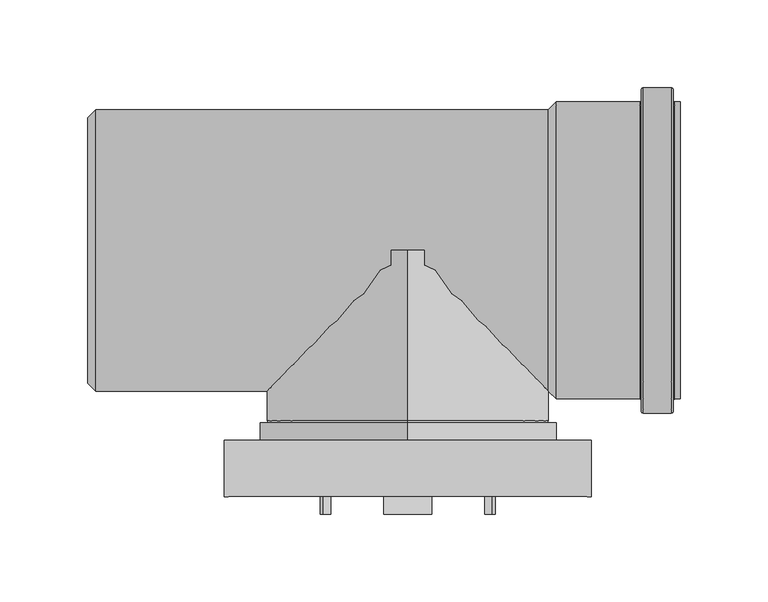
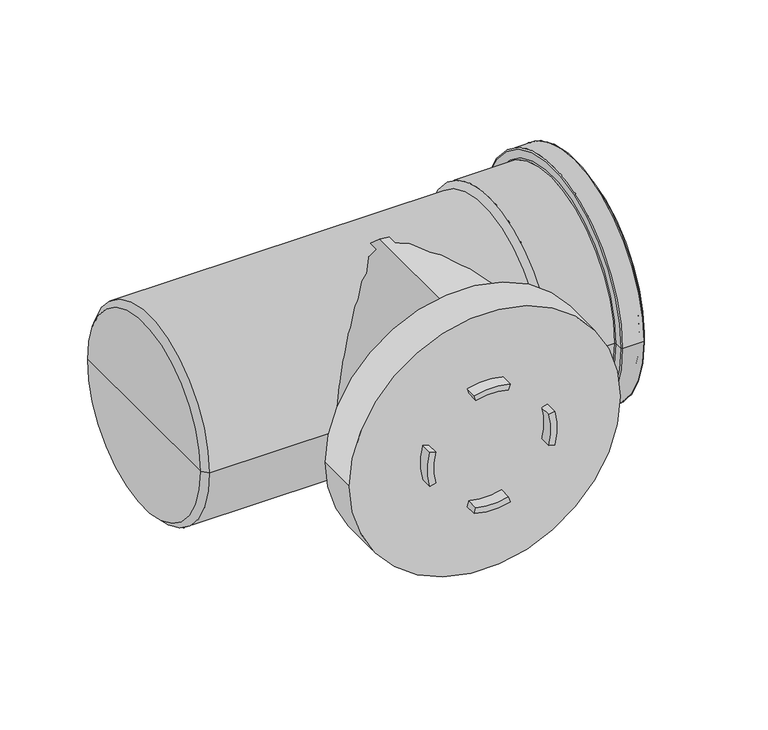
"""IFC4 building model written with IfcOpenShell, lengths in millimetres: pipe fitting geometry, MarleyPlumbingAndDrainage_PipeFitting_dBlueAccess_VCZ-160-000-00D : VCZ-160-000-00D - 160mm - Blue."""

from ifc_helpers import new_model, si_unit, point, frame, frame_2d, origin, place, context, project, spatial, polyline, circle_curve, ellipse_curve, trimmed, segment, composite_curve, outline, extrude, source, transform, mapped, element, save
from ifc_brep_helpers import plane_surface, cylinder_surface, revolved_surface, advanced_brep


def pipe_fitting_5ae2cbee(model_context):
    return source(origin(), model_context, "Body", "SolidModel", [
        advanced_brep(
        [(-603.7953164, -140.0, 0.0), (-394.7953164, -140.0, 0.0), (-603.7953164, -108.0, 0.0), (-394.7953164, -108.0, 0.0), (-499.2953164, -108.0, -84.5), (-499.2953164, -108.0, 84.5), (-499.2953164, -98.0, -84.5), (-499.2953164, -98.0, 84.5), (-499.2953164, -98.0, -81.0), (-499.2953164, -98.0, 81.0), (-499.2953164, -97.0, -80.0), (-499.2953164, -97.0, 80.0), (-499.2953164, 0.0, -80.0), (-499.2953164, 0.0, 80.0), (-499.2953164, 0.0, 0.0)],
        [
            (0, 1, circle_curve(frame((-499.2953164, -140.0, 0.0), z_axis=(0.0, -1.0, 0.0), x_axis=(1.0, 0.0, 0.0)), 104.5)),
            (1, 0, circle_curve(frame((-499.2953164, -140.0, 0.0), z_axis=(0.0, -1.0, 0.0), x_axis=(1.0, 0.0, 0.0)), 104.5)),
            (2, 3, circle_curve(frame((-499.2953164, -108.0, 0.0), z_axis=(0.0, 1.0, 0.0), x_axis=(1.0, 0.0, 0.0)), 104.5)),
            (3, 2, circle_curve(frame((-499.2953164, -108.0, 0.0), z_axis=(0.0, 1.0, 0.0), x_axis=(1.0, 0.0, 0.0)), 104.5)),
            (4, 5, circle_curve(frame((-499.2953164, -108.0, 0.0), z_axis=(0.0, -1.0, 0.0), x_axis=(0.0, 0.0, 1.0)), 84.5)),
            (5, 4, circle_curve(frame((-499.2953164, -108.0, 0.0), z_axis=(0.0, -1.0, 0.0), x_axis=(0.0, 0.0, 1.0)), 84.5)),
            (0, 2),
            (3, 1),
            (6, 7, circle_curve(frame((-499.2953164, -98.0, 0.0), z_axis=(0.0, -1.0, 0.0), x_axis=(0.0, 0.0, 1.0)), 84.5)),
            (7, 5),
            (4, 6),
            (7, 6, circle_curve(frame((-499.2953164, -98.0, 0.0), z_axis=(0.0, -1.0, 0.0), x_axis=(0.0, 0.0, 1.0)), 84.5)),
            (6, 8),
            (8, 9, circle_curve(frame((-499.2953164, -98.0, 0.0), z_axis=(0.0, -1.0, 0.0), x_axis=(0.0, 0.0, 1.0)), 81.0)),
            (9, 7),
            (9, 8, circle_curve(frame((-499.2953164, -98.0, 0.0), z_axis=(0.0, -1.0, 0.0), x_axis=(0.0, 0.0, 1.0)), 81.0)),
            (8, 10, circle_curve(frame((-499.2953164, -97.0, -81.0), z_axis=(-1.0, 0.0, 0.0), x_axis=(0.0, -1.0, 0.0)), 1.0)),
            (10, 11, circle_curve(frame((-499.2953164, -97.0, 0.0), z_axis=(0.0, -1.0, 0.0), x_axis=(0.0, 0.0, 1.0)), 80.0)),
            (11, 9, circle_curve(frame((-499.2953164, -97.0, 81.0), z_axis=(-1.0, 0.0, 0.0), x_axis=(0.0, -1.0, 0.0)), 1.0)),
            (11, 10, circle_curve(frame((-499.2953164, -97.0, 0.0), z_axis=(0.0, -1.0, 0.0), x_axis=(0.0, 0.0, 1.0)), 80.0)),
            (10, 12),
            (12, 13, circle_curve(frame((-499.2953164, 0.0, 0.0), z_axis=(0.0, -1.0, 0.0), x_axis=(0.0, 0.0, 1.0)), 80.0)),
            (13, 11),
            (13, 12, circle_curve(frame((-499.2953164, 0.0, 0.0), z_axis=(0.0, -1.0, 0.0), x_axis=(0.0, 0.0, 1.0)), 80.0)),
            (12, 14),
            (14, 13),
        ],
        [
            plane_surface(frame((-394.7953164, -140.0, 0.0), z_axis=(0.0, -1.0, 0.0), x_axis=(0.0, 0.0, 1.0))),
            plane_surface(frame((-394.7953164, -108.0, 0.0), z_axis=(0.0, 1.0, 0.0), x_axis=(0.0, 0.0, -1.0))),
            cylinder_surface(frame((-499.2953164, -108.0, 0.0), z_axis=(0.0, -1.0, 0.0), x_axis=(1.0, 0.0, 0.0)), 104.5),
            cylinder_surface(frame((-499.2953164, 1158.344146, 0.0), z_axis=(0.0, 1.0, 0.0), x_axis=(0.0, 0.0, 1.0)), 84.5),
            plane_surface(frame((-499.2953164, -98.0, 0.0), z_axis=(0.0, 1.0, 0.0), x_axis=(0.0, 0.0, 1.0))),
            revolved_surface(trimmed(ellipse_curve(frame((-499.2953164, -97.0, 81.0), z_axis=(1.0, 0.0, 0.0), x_axis=(0.0, -1.0, 0.0)), 1.0, 1.0), [point((-499.2953164, -98.0, 81.0))], [point((-499.2953164, -97.0, 80.0))], True, "CARTESIAN"), (-499.2953164, 1158.344146, 0.0), (0.0, 1.0, 0.0)),
            cylinder_surface(frame((-499.2953164, 1158.344146, 0.0), z_axis=(0.0, 1.0, 0.0), x_axis=(0.0, 0.0, 1.0)), 80.0),
            plane_surface(frame((-499.2953164, 0.0, 0.0), z_axis=(0.0, 1.0, 0.0), x_axis=(0.0, 0.0, 1.0))),
        ],
        [
            (0, [[1, 2]]),
            (1, [[3, 4], [5, 6]]),
            (2, [[-1, 7, -4, 8]]),
            (2, [[-2, -8, -3, -7]]),
            (3, [[9, 10, -5, 11]]),
            (3, [[-10, 12, -11, -6]]),
            (4, [[-9, 13, 14, 15]]),
            (4, [[-12, -15, 16, -13]]),
            (5, [[-14, 17, 18, 19]]),
            (5, [[-16, -19, 20, -17]]),
            (6, [[-18, 21, 22, 23]]),
            (6, [[-20, -23, 24, -21]]),
            (7, [[-22, 25, 26]]),
            (7, [[-24, -26, -25]]),
        ],
    ),
        extrude(outline(composite_curve([segment(polyline([(43.7374072, -486.7538167), (48.0630848, -485.5134486)]), True, "CONTINUOUS"), segment(trimmed(circle_curve(frame_2d((0.0, -499.2953164)), 50.0), [point((48.0630848, -485.5134486))], [point((48.0630848, -513.0771842))], False, "CARTESIAN"), True, "CONTINUOUS"), segment(polyline([(48.0630848, -513.0771842), (43.7374072, -511.8368161)]), True, "CONTINUOUS"), segment(trimmed(circle_curve(frame_2d((0.0, -499.2953164)), 45.5), [point((43.7374072, -511.8368161))], [point((43.7374072, -486.7538167))], True, "CARTESIAN"), True, "CONTINUOUS")], self_intersect=False)), frame((0.0, -150.0, 0.0), z_axis=(0.0, 1.0, 0.0), x_axis=(0.0, 0.0, 1.0)), (0.0, 0.0, 1.0), 10.0),
        extrude(outline(composite_curve([segment(polyline([(12.5414997, -543.0327236), (13.7818678, -547.3584012)]), True, "CONTINUOUS"), segment(trimmed(circle_curve(frame_2d((0.0, -499.2953164)), 50.0), [point((13.7818678, -547.3584012))], [point((-13.7818678, -547.3584012))], False, "CARTESIAN"), True, "CONTINUOUS"), segment(polyline([(-13.7818678, -547.3584012), (-12.5414997, -543.0327236)]), True, "CONTINUOUS"), segment(trimmed(circle_curve(frame_2d((0.0, -499.2953164)), 45.5), [point((-12.5414997, -543.0327236))], [point((12.5414997, -543.0327236))], True, "CARTESIAN"), True, "CONTINUOUS")], self_intersect=False)), frame((0.0, -150.0, 0.0), z_axis=(0.0, 1.0, 0.0), x_axis=(0.0, 0.0, 1.0)), (0.0, 0.0, 1.0), 10.0),
        extrude(outline(composite_curve([segment(trimmed(circle_curve(frame_2d((0.0, -499.2953164)), 45.5), [point((12.5414997, -455.5579092))], [point((-12.5414997, -455.5579092))], True, "CARTESIAN"), True, "CONTINUOUS"), segment(polyline([(-12.5414997, -455.5579092), (-13.7818678, -451.2322316)]), True, "CONTINUOUS"), segment(trimmed(circle_curve(frame_2d((0.0, -499.2953164)), 50.0), [point((-13.7818678, -451.2322316))], [point((13.7818678, -451.2322316))], False, "CARTESIAN"), True, "CONTINUOUS"), segment(polyline([(13.7818678, -451.2322316), (12.5414997, -455.5579092)]), True, "CONTINUOUS")], self_intersect=False)), frame((0.0, -150.0, 0.0), z_axis=(0.0, 1.0, 0.0), x_axis=(0.0, 0.0, 1.0)), (0.0, 0.0, 1.0), 10.0),
        extrude(outline(composite_curve([segment(polyline([(-48.0630848, -485.5134486), (-43.7374072, -486.7538167)]), True, "CONTINUOUS"), segment(trimmed(circle_curve(frame_2d((0.0, -499.2953164)), 45.5), [point((-43.7374072, -486.7538167))], [point((-43.7374072, -511.8368161))], True, "CARTESIAN"), True, "CONTINUOUS"), segment(polyline([(-43.7374072, -511.8368161), (-48.0630848, -513.0771842)]), True, "CONTINUOUS"), segment(trimmed(circle_curve(frame_2d((0.0, -499.2953164)), 50.0), [point((-48.0630848, -513.0771842))], [point((-48.0630848, -485.5134486))], False, "CARTESIAN"), True, "CONTINUOUS")], self_intersect=False)), frame((0.0, -150.0, 0.0), z_axis=(0.0, 1.0, 0.0), x_axis=(0.0, 0.0, 1.0)), (0.0, 0.0, 1.0), 10.0),
        advanced_brep(
        [(-347.2953164, -84.5, 0.0), (-347.2953164, 84.5, 0.0), (-344.2953164, 84.5, 0.0), (-344.2953164, -84.5, 0.0), (-348.2953164, -91.5, 0.0), (-348.2953164, 91.5, 0.0), (-348.2953164, 85.5, 0.0), (-348.2953164, -85.5, 0.0), (-365.2953164, -92.5, 0.0), (-365.2953164, 92.5, 0.0), (-349.2953164, 92.5, 0.0), (-349.2953164, -92.5, 0.0), (-366.2953164, -85.5, 0.0), (-366.2953164, 85.5, 0.0), (-366.2953164, 91.5, 0.0), (-366.2953164, -91.5, 0.0), (-414.7953164, -84.5, 0.0), (-414.7953164, 84.5, 0.0), (-367.2953164, 84.5, 0.0), (-367.2953164, -84.5, 0.0), (-419.2953164, -80.0, 0.0), (-419.2953164, 80.0, 0.0), (-676.7953164, -80.0, 0.0), (-676.7953164, 80.0, 0.0), (-681.2953164, -75.5, 0.0), (-681.2953164, 75.5, 0.0), (-414.7953164, -80.0, 0.0), (-414.7953164, 80.0, 0.0), (-414.7953164, 0.0, 0.0), (-344.2953164, -80.0, 0.0), (-344.2953164, 80.0, 0.0), (-681.2953164, 0.0, 0.0)],
        [
            (0, 1, circle_curve(frame((-347.2953164, 0.0, 0.0), z_axis=(1.0, 0.0, 0.0), x_axis=(0.0, 1.0, 0.0)), 84.5)),
            (1, 2),
            (2, 3, circle_curve(frame((-344.2953164, 0.0, 0.0), z_axis=(-1.0, 0.0, 0.0), x_axis=(0.0, 1.0, 0.0)), 84.5)),
            (3, 0),
            (1, 0, circle_curve(frame((-347.2953164, 0.0, 0.0), z_axis=(1.0, 0.0, 0.0), x_axis=(0.0, 1.0, 0.0)), 84.5)),
            (3, 2, circle_curve(frame((-344.2953164, 0.0, 0.0), z_axis=(-1.0, 0.0, 0.0), x_axis=(0.0, 1.0, 0.0)), 84.5)),
            (4, 5, circle_curve(frame((-348.2953164, 0.0, 0.0), z_axis=(1.0, 0.0, 0.0), x_axis=(0.0, 1.0, 0.0)), 91.5)),
            (5, 6),
            (6, 7, circle_curve(frame((-348.2953164, 0.0, 0.0), z_axis=(-1.0, 0.0, 0.0), x_axis=(0.0, 1.0, 0.0)), 85.5)),
            (7, 4),
            (5, 4, circle_curve(frame((-348.2953164, 0.0, 0.0), z_axis=(1.0, 0.0, 0.0), x_axis=(0.0, 1.0, 0.0)), 91.5)),
            (7, 6, circle_curve(frame((-348.2953164, 0.0, 0.0), z_axis=(-1.0, 0.0, 0.0), x_axis=(0.0, 1.0, 0.0)), 85.5)),
            (8, 9, circle_curve(frame((-365.2953164, 0.0, 0.0), z_axis=(1.0, 0.0, 0.0), x_axis=(0.0, 1.0, 0.0)), 92.5)),
            (9, 10),
            (10, 11, circle_curve(frame((-349.2953164, 0.0, 0.0), z_axis=(-1.0, 0.0, 0.0), x_axis=(0.0, 1.0, 0.0)), 92.5)),
            (11, 8),
            (9, 8, circle_curve(frame((-365.2953164, 0.0, 0.0), z_axis=(1.0, 0.0, 0.0), x_axis=(0.0, 1.0, 0.0)), 92.5)),
            (11, 10, circle_curve(frame((-349.2953164, 0.0, 0.0), z_axis=(-1.0, 0.0, 0.0), x_axis=(0.0, 1.0, 0.0)), 92.5)),
            (12, 13, circle_curve(frame((-366.2953164, 0.0, 0.0), z_axis=(1.0, 0.0, 0.0), x_axis=(0.0, 1.0, 0.0)), 85.5)),
            (13, 14),
            (14, 15, circle_curve(frame((-366.2953164, 0.0, 0.0), z_axis=(-1.0, 0.0, 0.0), x_axis=(0.0, 1.0, 0.0)), 91.5)),
            (15, 12),
            (13, 12, circle_curve(frame((-366.2953164, 0.0, 0.0), z_axis=(1.0, 0.0, 0.0), x_axis=(0.0, 1.0, 0.0)), 85.5)),
            (15, 14, circle_curve(frame((-366.2953164, 0.0, 0.0), z_axis=(-1.0, 0.0, 0.0), x_axis=(0.0, 1.0, 0.0)), 91.5)),
            (16, 17, circle_curve(frame((-414.7953164, 0.0, 0.0), z_axis=(1.0, 0.0, 0.0), x_axis=(0.0, 1.0, 0.0)), 84.5)),
            (17, 18),
            (18, 19, circle_curve(frame((-367.2953164, 0.0, 0.0), z_axis=(-1.0, 0.0, 0.0), x_axis=(0.0, 1.0, 0.0)), 84.5)),
            (19, 16),
            (17, 16, circle_curve(frame((-414.7953164, 0.0, 0.0), z_axis=(1.0, 0.0, 0.0), x_axis=(0.0, 1.0, 0.0)), 84.5)),
            (19, 18, circle_curve(frame((-367.2953164, 0.0, 0.0), z_axis=(-1.0, 0.0, 0.0), x_axis=(0.0, 1.0, 0.0)), 84.5)),
            (20, 21, circle_curve(frame((-419.2953164, 0.0, 0.0), z_axis=(1.0, 0.0, 0.0), x_axis=(0.0, 1.0, 0.0)), 80.0)),
            (21, 17),
            (16, 20),
            (21, 20, circle_curve(frame((-419.2953164, 0.0, 0.0), z_axis=(1.0, 0.0, 0.0), x_axis=(0.0, 1.0, 0.0)), 80.0)),
            (22, 23, circle_curve(frame((-676.7953164, 0.0, 0.0), z_axis=(1.0, 0.0, 0.0), x_axis=(0.0, 1.0, 0.0)), 80.0)),
            (23, 21),
            (20, 22),
            (23, 22, circle_curve(frame((-676.7953164, 0.0, 0.0), z_axis=(1.0, 0.0, 0.0), x_axis=(0.0, 1.0, 0.0)), 80.0)),
            (24, 25, circle_curve(frame((-681.2953164, 0.0, 0.0), z_axis=(1.0, 0.0, 0.0), x_axis=(0.0, 1.0, 0.0)), 75.5)),
            (25, 23),
            (22, 24),
            (25, 24, circle_curve(frame((-681.2953164, 0.0, 0.0), z_axis=(1.0, 0.0, 0.0), x_axis=(0.0, 1.0, 0.0)), 75.5)),
            (26, 27, circle_curve(frame((-414.7953164, 0.0, 0.0), z_axis=(1.0, 0.0, 0.0), x_axis=(0.0, 1.0, 0.0)), 80.0)),
            (27, 28),
            (28, 26),
            (27, 26, circle_curve(frame((-414.7953164, 0.0, 0.0), z_axis=(1.0, 0.0, 0.0), x_axis=(0.0, 1.0, 0.0)), 80.0)),
            (29, 30, circle_curve(frame((-344.2953164, 0.0, 0.0), z_axis=(1.0, 0.0, 0.0), x_axis=(0.0, 1.0, 0.0)), 80.0)),
            (30, 27),
            (26, 29),
            (30, 29, circle_curve(frame((-344.2953164, 0.0, 0.0), z_axis=(1.0, 0.0, 0.0), x_axis=(0.0, 1.0, 0.0)), 80.0)),
            (2, 30),
            (29, 3),
            (6, 1, circle_curve(frame((-347.2953164, 85.5, 0.0), z_axis=(0.0, 0.0, 1.0), x_axis=(1.0, 0.0, 0.0)), 1.0)),
            (0, 7, circle_curve(frame((-347.2953164, -85.5, 0.0), z_axis=(0.0, 0.0, 1.0), x_axis=(1.0, 0.0, 0.0)), 1.0)),
            (10, 5, circle_curve(frame((-349.2953164, 91.5, 0.0), z_axis=(0.0, 0.0, -1.0), x_axis=(1.0, 0.0, 0.0)), 1.0)),
            (4, 11, circle_curve(frame((-349.2953164, -91.5, 0.0), z_axis=(0.0, 0.0, -1.0), x_axis=(1.0, 0.0, 0.0)), 1.0)),
            (14, 9, circle_curve(frame((-365.2953164, 91.5, 0.0), z_axis=(0.0, 0.0, -1.0), x_axis=(1.0, 0.0, 0.0)), 1.0)),
            (8, 15, circle_curve(frame((-365.2953164, -91.5, 0.0), z_axis=(0.0, 0.0, -1.0), x_axis=(1.0, 0.0, 0.0)), 1.0)),
            (18, 13, circle_curve(frame((-367.2953164, 85.5, 0.0), z_axis=(0.0, 0.0, 1.0), x_axis=(1.0, 0.0, 0.0)), 1.0)),
            (12, 19, circle_curve(frame((-367.2953164, -85.5, 0.0), z_axis=(0.0, 0.0, 1.0), x_axis=(1.0, 0.0, 0.0)), 1.0)),
            (31, 25),
            (24, 31),
        ],
        [
            cylinder_surface(frame((2067.5, 0.0, 0.0), z_axis=(-1.0, 0.0, 0.0), x_axis=(0.0, 1.0, 0.0)), 84.5),
            plane_surface(frame((-348.2953164, 0.0, 0.0), z_axis=(1.0, 0.0, 0.0), x_axis=(0.0, 1.0, 0.0))),
            cylinder_surface(frame((2067.5, 0.0, 0.0), z_axis=(-1.0, 0.0, 0.0), x_axis=(0.0, 1.0, 0.0)), 92.5),
            plane_surface(frame((-366.2953164, 0.0, 0.0), z_axis=(-1.0, 0.0, 0.0), x_axis=(0.0, 1.0, 0.0))),
            revolved_surface(polyline([(-414.7953164, 84.5, 0.0), (-419.2953164, 80.0, 0.0)]), (2067.5, 0.0, 0.0), (-1.0, 0.0, 0.0)),
            cylinder_surface(frame((2067.5, 0.0, 0.0), z_axis=(-1.0, 0.0, 0.0), x_axis=(0.0, 1.0, 0.0)), 80.0),
            revolved_surface(polyline([(-676.7953164, 80.0, 0.0), (-681.2953164, 75.5, 0.0)]), (2067.5, 0.0, 0.0), (-1.0, 0.0, 0.0)),
            plane_surface(frame((-414.7953164, 0.0, 0.0), z_axis=(1.0, 0.0, 0.0), x_axis=(0.0, 1.0, 0.0))),
            revolved_surface(polyline([(-414.79531640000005, 80.0, 0.0), (-344.29531640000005, 80.0, 0.0)]), (2067.5, 0.0, 0.0), (-1.0, 0.0, 0.0)),
            plane_surface(frame((-344.2953164, 0.0, 0.0), z_axis=(1.0, 0.0, 0.0), x_axis=(0.0, 1.0, 0.0))),
            revolved_surface(trimmed(ellipse_curve(frame((-347.2953164, 85.5, 0.0), z_axis=(0.0, 0.0, -1.0), x_axis=(1.0, 0.0, 0.0)), 1.0, 1.0), [point((-347.2953164, 84.5, 0.0))], [point((-348.2953164, 85.5, 0.0))], True, "CARTESIAN"), (2067.5, 0.0, 0.0), (-1.0, 0.0, 0.0)),
            revolved_surface(trimmed(ellipse_curve(frame((-349.2953164, 91.5, 0.0), z_axis=(0.0, 0.0, 1.0), x_axis=(1.0, 0.0, 0.0)), 1.0, 1.0), [point((-348.2953164, 91.5, 0.0))], [point((-349.2953164, 92.5, 0.0))], True, "CARTESIAN"), (2067.5, 0.0, 0.0), (-1.0, 0.0, 0.0)),
            revolved_surface(trimmed(ellipse_curve(frame((-365.2953164, 91.5, 0.0), z_axis=(0.0, 0.0, 1.0), x_axis=(1.0, 0.0, 0.0)), 1.0, 1.0), [point((-365.2953164, 92.5, 0.0))], [point((-366.2953164, 91.5, 0.0))], True, "CARTESIAN"), (2067.5, 0.0, 0.0), (-1.0, 0.0, 0.0)),
            revolved_surface(trimmed(ellipse_curve(frame((-367.2953164, 85.5, 0.0), z_axis=(0.0, 0.0, -1.0), x_axis=(1.0, 0.0, 0.0)), 1.0, 1.0), [point((-366.2953164, 85.5, 0.0))], [point((-367.2953164, 84.5, 0.0))], True, "CARTESIAN"), (2067.5, 0.0, 0.0), (-1.0, 0.0, 0.0)),
            plane_surface(frame((-681.2953164, 0.0, 0.0), z_axis=(-1.0, 0.0, 0.0), x_axis=(0.0, 1.0, 0.0))),
        ],
        [
            (0, [[1, 2, 3, 4]]),
            (0, [[5, -4, 6, -2]]),
            (1, [[7, 8, 9, 10]]),
            (1, [[11, -10, 12, -8]]),
            (2, [[13, 14, 15, 16]]),
            (2, [[17, -16, 18, -14]]),
            (3, [[19, 20, 21, 22]]),
            (3, [[23, -22, 24, -20]]),
            (0, [[25, 26, 27, 28]]),
            (0, [[29, -28, 30, -26]]),
            (4, [[31, 32, -25, 33]]),
            (4, [[34, -33, -29, -32]]),
            (5, [[35, 36, -31, 37]]),
            (5, [[38, -37, -34, -36]]),
            (6, [[39, 40, -35, 41]]),
            (6, [[42, -41, -38, -40]]),
            (7, [[43, 44, 45]]),
            (7, [[46, -45, -44]]),
            (8, [[47, 48, -43, 49]]),
            (8, [[50, -49, -46, -48]]),
            (9, [[-3, 51, -47, 52]]),
            (9, [[-6, -52, -50, -51]]),
            (10, [[-9, 53, -1, 54]]),
            (10, [[-12, -54, -5, -53]]),
            (11, [[-15, 55, -7, 56]]),
            (11, [[-18, -56, -11, -55]]),
            (12, [[-21, 57, -13, 58]]),
            (12, [[-24, -58, -17, -57]]),
            (13, [[-27, 59, -19, 60]]),
            (13, [[-30, -60, -23, -59]]),
            (14, [[61, -39, 62]]),
            (14, [[-62, -42, -61]]),
        ],
    ),
    ])


if __name__ == "__main__":
    model = new_model("IFC4")
    model_context = context("Model", 3, world=origin())
    ifc_project = project(units=[si_unit("LENGTHUNIT", "METRE", prefix="MILLI")], contexts=[model_context])
    site = spatial("IfcSite", under=ifc_project)
    building = spatial("IfcBuilding", under=site)
    placement = place(None, origin())
    pipe_fitting_shape = pipe_fitting_5ae2cbee(model_context)
    element("IfcPipeFitting", 1, ObjectType="MarleyPlumbingAndDrainage_PipeFitting_dBlueAccess_VCZ-160-000-00D : VCZ-160-000-00D - 160mm - Blue", at=placement, inside=building, context=model_context, shape_type="MappedRepresentation", body=[
        mapped(pipe_fitting_shape, transform((0.0, 0.0, 0.0), x_axis=(1.0, 0.0, 0.0), y_axis=(0.0, 1.0, 0.0), z_axis=(0.0, 0.0, 1.0))),
    ])
    save(model, "model.ifc")
